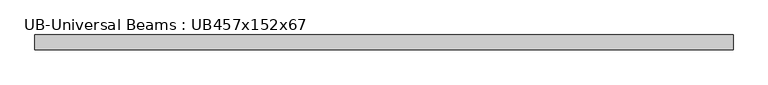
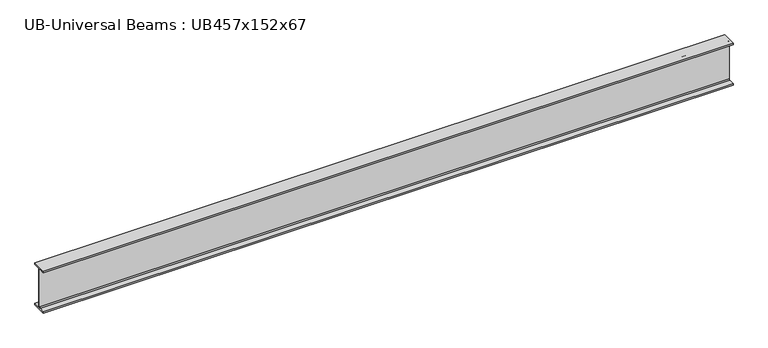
"""IFC4 building model written with IfcOpenShell, lengths in millimetres: beam geometry, UB-Universal Beams : UB457x152x67."""

from ifc_helpers import new_model, si_unit, point, frame, frame_2d, origin, place, context, project, spatial, polyline, circle_curve, trimmed, segment, composite_curve, outline, extrude, source, transform, mapped, element, save


def ub_universal_beams_ub457x152x67_f563fb2c(model_context):
    return source(origin(), model_context, "Body", "SweptSolid", [
        extrude(outline(composite_curve([segment(polyline([(76.9, -214.0), (76.9, -229.0), (-76.9, -229.0), (-76.9, -214.0), (-14.7, -214.0)]), True, "CONTINUOUS"), segment(trimmed(circle_curve(frame_2d((-14.7, -203.8)), 10.2), [point((-14.7, -214.0))], [point((-4.5, -203.8))], True, "CARTESIAN"), True, "CONTINUOUS"), segment(polyline([(-4.5, -203.8), (-4.5, 203.8)]), True, "CONTINUOUS"), segment(trimmed(circle_curve(frame_2d((-14.7, 203.8)), 10.2), [point((-4.5, 203.8))], [point((-14.7, 214.0))], True, "CARTESIAN"), True, "CONTINUOUS"), segment(polyline([(-14.7, 214.0), (-76.9, 214.0), (-76.9, 229.0), (76.9, 229.0), (76.9, 214.0), (14.7, 214.0)]), True, "CONTINUOUS"), segment(trimmed(circle_curve(frame_2d((14.7, 203.8)), 10.2), [point((14.7, 214.0))], [point((4.5, 203.8))], True, "CARTESIAN"), True, "CONTINUOUS"), segment(polyline([(4.5, 203.8), (4.5, -203.8)]), True, "CONTINUOUS"), segment(trimmed(circle_curve(frame_2d((14.7, -203.8)), 10.2), [point((4.5, -203.8))], [point((14.7, -214.0))], True, "CARTESIAN"), True, "CONTINUOUS"), segment(polyline([(14.7, -214.0), (76.9, -214.0)]), True, "CONTINUOUS")], self_intersect=False)), frame((-3536.1, 0.0, 0.0), z_axis=(1.0, 0.0, 0.0), x_axis=(0.0, 1.0, 0.0)), (0.0, 0.0, 1.0), 7148.7),
    ])


if __name__ == "__main__":
    model = new_model("IFC4")
    model_context = context("Model", 3, world=origin())
    ifc_project = project(units=[si_unit("LENGTHUNIT", "METRE", prefix="MILLI")], contexts=[model_context])
    site = spatial("IfcSite", under=ifc_project)
    building = spatial("IfcBuilding", under=site)
    placement = place(None, origin())
    ub_universal_beams_ub457x152x67_shape = ub_universal_beams_ub457x152x67_f563fb2c(model_context)
    element("IfcBeam", 1, ObjectType="UB-Universal Beams : UB457x152x67", at=placement, inside=building, context=model_context, shape_type="MappedRepresentation", body=[
        mapped(ub_universal_beams_ub457x152x67_shape, transform((0.0, 0.0, 0.0), x_axis=(1.0, 0.0, 0.0), y_axis=(0.0, 1.0, 0.0), z_axis=(0.0, 0.0, 1.0))),
    ])
    save(model, "model.ifc")
